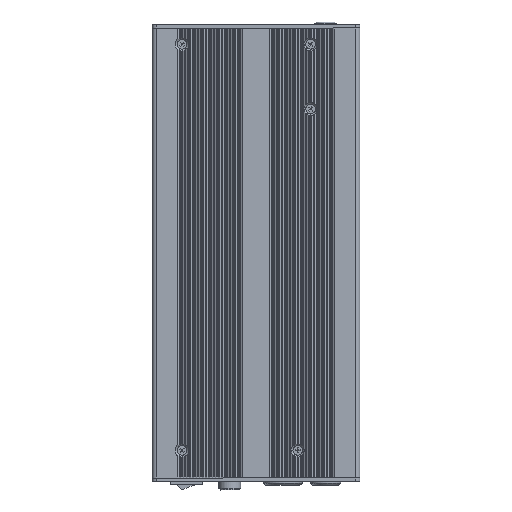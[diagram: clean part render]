
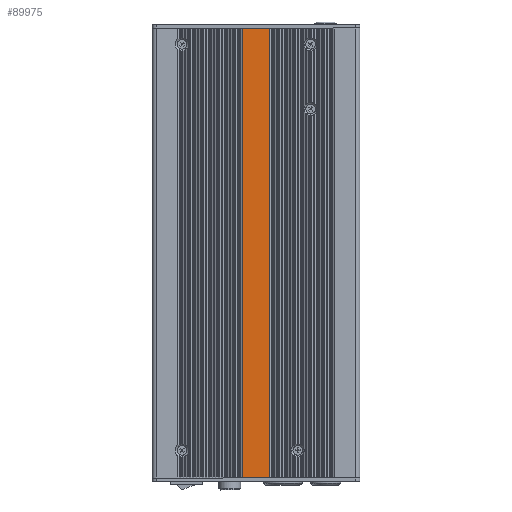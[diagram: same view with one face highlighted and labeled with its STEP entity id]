
A CAD part, front view. The second image highlights one B-rep face of the part: STEP entity #89975.
In plain terms, the highlighted planar face has unit normal (0, -1, 0).
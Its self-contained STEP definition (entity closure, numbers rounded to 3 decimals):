
#12981 = LINE ( 'NONE', #216493, #152714 ) ;
#13818 = LINE ( 'NONE', #15237, #128272 ) ;
#15237 = CARTESIAN_POINT ( 'NONE',  ( -6.454, -7.371, 0. ) ) ;
#27034 = CARTESIAN_POINT ( 'NONE',  ( 6.456, -7.371, 0. ) ) ;
#27225 = CARTESIAN_POINT ( 'NONE',  ( -6.454, -7.371, 0. ) ) ;
#32781 = DIRECTION ( 'NONE',  ( 0., 0., 1. ) ) ;
#36886 = DIRECTION ( 'NONE',  ( 0., 0., -1. ) ) ;
#43649 = CARTESIAN_POINT ( 'NONE',  ( -6.454, -7.371, 0. ) ) ;
#55880 = FACE_OUTER_BOUND ( 'NONE', #204319, .T. ) ;
#89820 = DIRECTION ( 'NONE',  ( 1., 0., 0. ) ) ;
#89975 = ADVANCED_FACE ( 'NONE', ( #55880 ), #144499, .F. ) ;
#96100 = AXIS2_PLACEMENT_3D ( 'NONE', #192529, #218570, #36886 ) ;
#97234 = VERTEX_POINT ( 'NONE', #251409 ) ;
#104745 = VECTOR ( 'NONE', #202162, 1000. ) ;
#122472 = VECTOR ( 'NONE', #89820, 1000. ) ;
#128272 = VECTOR ( 'NONE', #32781, 1000. ) ;
#139990 = ORIENTED_EDGE ( 'NONE', *, *, #150402, .T. ) ;
#141614 = VERTEX_POINT ( 'NONE', #27034 ) ;
#144499 = PLANE ( 'NONE',  #96100 ) ;
#145863 = EDGE_CURVE ( 'NONE', #141614, #187087, #12981, .T. ) ;
#146751 = VERTEX_POINT ( 'NONE', #43649 ) ;
#150402 = EDGE_CURVE ( 'NONE', #146751, #141614, #227800, .T. ) ;
#152714 = VECTOR ( 'NONE', #232505, 1000. ) ;
#187087 = VERTEX_POINT ( 'NONE', #191781 ) ;
#189866 = ORIENTED_EDGE ( 'NONE', *, *, #283012, .F. ) ;
#191781 = CARTESIAN_POINT ( 'NONE',  ( 6.456, -7.371, 210. ) ) ;
#192529 = CARTESIAN_POINT ( 'NONE',  ( -6.454, -7.371, 0. ) ) ;
#202162 = DIRECTION ( 'NONE',  ( 1., 0., 0. ) ) ;
#204319 = EDGE_LOOP ( 'NONE', ( #139990, #218832, #283876, #189866 ) ) ;
#206514 = EDGE_CURVE ( 'NONE', #97234, #187087, #218209, .T. ) ;
#216493 = CARTESIAN_POINT ( 'NONE',  ( 6.456, -7.371, 0. ) ) ;
#218209 = LINE ( 'NONE', #223884, #104745 ) ;
#218570 = DIRECTION ( 'NONE',  ( 0., 1., 0. ) ) ;
#218832 = ORIENTED_EDGE ( 'NONE', *, *, #145863, .T. ) ;
#223884 = CARTESIAN_POINT ( 'NONE',  ( -6.454, -7.371, 210. ) ) ;
#227800 = LINE ( 'NONE', #27225, #122472 ) ;
#232505 = DIRECTION ( 'NONE',  ( 0., 0., 1. ) ) ;
#251409 = CARTESIAN_POINT ( 'NONE',  ( -6.454, -7.371, 210. ) ) ;
#283012 = EDGE_CURVE ( 'NONE', #146751, #97234, #13818, .T. ) ;
#283876 = ORIENTED_EDGE ( 'NONE', *, *, #206514, .F. ) ;
